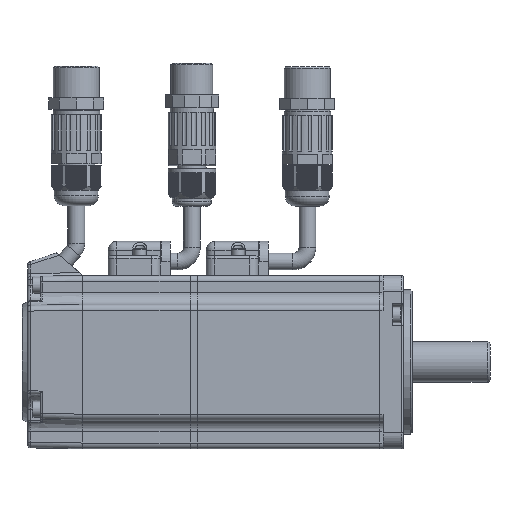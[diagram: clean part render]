
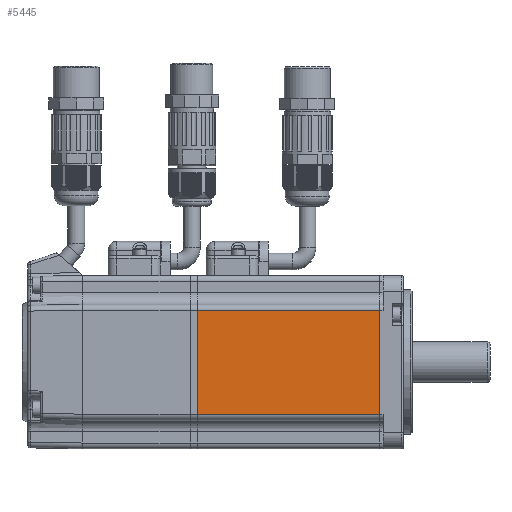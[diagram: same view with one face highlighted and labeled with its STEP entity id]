
A CAD part, left-side view. The second image highlights one B-rep face of the part: STEP entity #5445.
In plain terms, the highlighted planar face has unit normal (-1, 0, 0).
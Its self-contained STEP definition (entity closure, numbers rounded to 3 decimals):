
#3015=FACE_OUTER_BOUND('',#18083,.T.);
#5445=ADVANCED_FACE('',(#3015),#8133,.F.);
#8133=PLANE('',#47033);
#10039=LINE('',#62349,#13738);
#10051=LINE('',#62395,#13750);
#10052=LINE('',#62397,#13751);
#10078=LINE('',#62477,#13777);
#13738=VECTOR('',#50881,1.);
#13750=VECTOR('',#50923,1.);
#13751=VECTOR('',#50926,1.);
#13777=VECTOR('',#51020,1.);
#18083=EDGE_LOOP('',(#21199,#21200,#21201,#21202));
#21199=ORIENTED_EDGE('',*,*,#39042,.T.);
#21200=ORIENTED_EDGE('',*,*,#39018,.F.);
#21201=ORIENTED_EDGE('',*,*,#39041,.T.);
#21202=ORIENTED_EDGE('',*,*,#39080,.F.);
#34623=VERTEX_POINT('',#62348);
#34624=VERTEX_POINT('',#62350);
#34642=VERTEX_POINT('',#62394);
#34643=VERTEX_POINT('',#62398);
#39018=EDGE_CURVE('',#34623,#34624,#10039,.T.);
#39041=EDGE_CURVE('',#34623,#34642,#10051,.T.);
#39042=EDGE_CURVE('',#34643,#34624,#10052,.T.);
#39080=EDGE_CURVE('',#34643,#34642,#10078,.T.);
#47033=AXIS2_PLACEMENT_3D('',#62478,#51021,#51022);
#50881=DIRECTION('',(0.,0.,-1.));
#50923=DIRECTION('',(0.,1.,0.));
#50926=DIRECTION('',(0.,-1.,0.));
#51020=DIRECTION('',(0.,0.,1.));
#51021=DIRECTION('',(1.,0.,0.));
#51022=DIRECTION('',(0.,-1.,0.));
#62348=CARTESIAN_POINT('',(-115.303,95.19,32.521));
#62349=CARTESIAN_POINT('',(-115.303,95.19,14.521));
#62350=CARTESIAN_POINT('',(-115.303,95.19,-3.479));
#62394=CARTESIAN_POINT('',(-115.303,158.291,32.521));
#62395=CARTESIAN_POINT('',(-115.303,144.19,32.521));
#62397=CARTESIAN_POINT('',(-115.303,144.19,-3.479));
#62398=CARTESIAN_POINT('',(-115.303,158.291,-3.479));
#62477=CARTESIAN_POINT('',(-115.303,158.291,14.521));
#62478=CARTESIAN_POINT('',(-115.303,144.19,-15.479));
